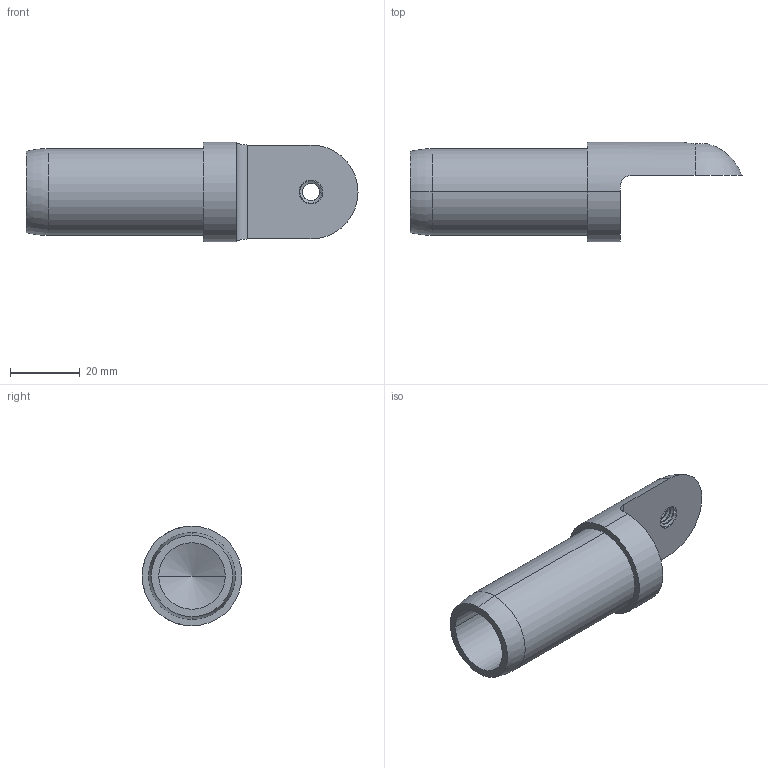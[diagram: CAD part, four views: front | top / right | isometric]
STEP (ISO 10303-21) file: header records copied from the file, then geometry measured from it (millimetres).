
FILE_DESCRIPTION (( 'STEP AP214' ), '1' );
FILE_NAME ('DRP-002-0512-00.STEP', '2013-12-20T16:48:59', ( 'ydmin' ), ( 'Microsoft' ), 'SwSTEP 2.0', 'SolidWorks 2013', '' );
FILE_SCHEMA (( 'AUTOMOTIVE_DESIGN' ));
Length unit declared in the file: inch
Products named in the file (1): DRP-002-0512-00
Bounding box: 95.16 x 28.57 x 28.57 mm (x, y, z)
Volume: 20798.9 mm3; surface area: 11511.5 mm2
Topology: 2 solids, 2 shells, 28 faces, 66 edges, 41 vertices
Faces by surface type: cylinder 9, bspline 8, plane 6, torus 2, cone 2, sphere 1
Entity records: 2755 total; most frequent: CARTESIAN_POINT 1741, ORIENTED_EDGE 128, DIRECTION 118, EDGE_CURVE 64, AXIS2_PLACEMENT_3D 44, VERTEX_POINT 41, LENGTH_MEASURE_WITH_UNIT 32, UNCERTAINTY_MEASURE_WITH_UNIT 32
